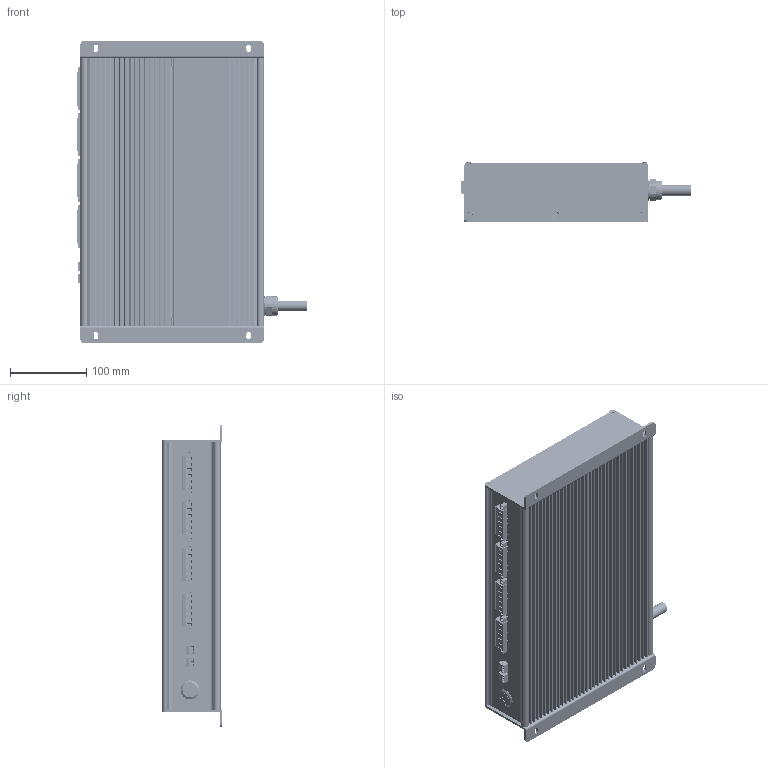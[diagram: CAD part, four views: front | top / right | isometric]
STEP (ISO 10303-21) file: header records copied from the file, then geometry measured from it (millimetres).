
FILE_DESCRIPTION((''),'2;1');
FILE_NAME('DRIVER_ASM','2026-09-18T08:16:14',('dgsjk'),(''),'CREO PARAMETRIC BY PTC INC, 2025102','CREO PARAMETRIC BY PTC INC, 2025102','');
FILE_SCHEMA(('CONFIG_CONTROL_DESIGN'));
Products named in the file (26): LALV; PCB-DRV; PCB-RELAY; PCB_ASM; XIANKOU-M20; M20-LUOMU; XIAN; XIANKOU-M20-_ASM; KAIGUAN-IP65; GAIBAN; CEGAI; HS-M4X8; POWER-700W; PCB-6PIN; 2EDGRM-7_62-06P; PCB-6PIN_ASM; 2EDGKM-7_62-06P; PCB-DMX; 3PIN-X; PCB-DMX_ASM; 3PIN-MU-; LEIJI; PCB-JIEXIAN; EVA; PCB-SILICON; DRIVER_ASM
Assembly tree (50 placements, depth 3):
  DRIVER_ASM
    LALV
    PCB_ASM
      PCB-DRV
      PCB-RELAY
    XIANKOU-M20-_ASM
      XIANKOU-M20
      M20-LUOMU
      XIAN
    KAIGUAN-IP65
    GAIBAN
    CEGAI  x2
    HS-M4X8  x16
    POWER-700W
    PCB-6PIN_ASM
      PCB-6PIN
      2EDGRM-7_62-06P  x4
    2EDGKM-7_62-06P  x4
    PCB-DMX_ASM
      PCB-DMX
      3PIN-X  x2
    3PIN-MU-  x2
    LEIJI
    PCB-JIEXIAN
    EVA  x2
    PCB-SILICON
Bounding box: 301.7 x 79 x 396 mm (x, y, z)
Volume: 1577787.5 mm3; surface area: 1091586.1 mm2
Topology: 67 solids, 116 shells, 9504 faces, 27130 edges, 17932 vertices
Faces by surface type: plane 6204, cylinder 2309, torus 486, cone 332, bspline 147, sphere 18, extrusion 8
Entity records: 135953 total; most frequent: CARTESIAN_POINT 38588, ORIENTED_EDGE 20162, DIRECTION 20143, EDGE_CURVE 10214, AXIS2_PLACEMENT_3D 6802, VERTEX_POINT 6703, VECTOR 6539, LINE 6537
